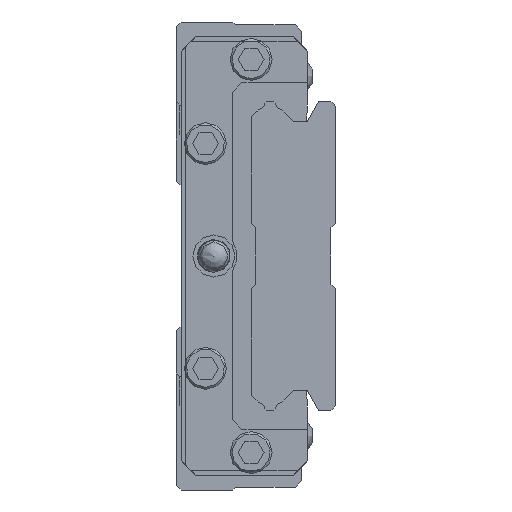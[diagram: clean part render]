
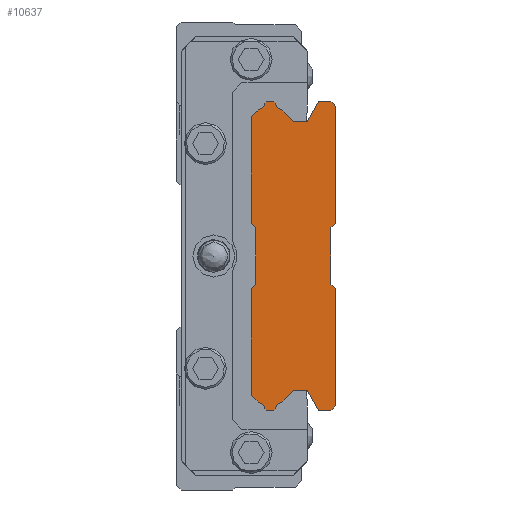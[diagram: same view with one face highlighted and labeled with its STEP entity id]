
A CAD part, left-side view. The second image highlights one B-rep face of the part: STEP entity #10637.
In plain terms, the highlighted planar face has unit normal (-1, 0, 0).
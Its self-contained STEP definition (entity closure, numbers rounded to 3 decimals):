
#452=LINE('',#16907,#1020);
#462=LINE('',#16928,#1030);
#469=LINE('',#16943,#1037);
#478=LINE('',#16961,#1046);
#481=LINE('',#16966,#1049);
#488=LINE('',#16978,#1056);
#497=LINE('',#16997,#1065);
#500=LINE('',#17003,#1068);
#506=LINE('',#17015,#1074);
#515=LINE('',#17033,#1083);
#518=LINE('',#17039,#1086);
#524=LINE('',#17051,#1092);
#529=LINE('',#17136,#1097);
#535=LINE('',#17222,#1103);
#544=LINE('',#17240,#1112);
#547=LINE('',#17321,#1115);
#555=LINE('',#17411,#1123);
#558=LINE('',#17493,#1126);
#564=LINE('',#17579,#1132);
#573=LINE('',#17597,#1141);
#576=LINE('',#17679,#1144);
#582=LINE('',#17765,#1150);
#587=LINE('',#17778,#1155);
#590=LINE('',#17784,#1158);
#592=LINE('',#17787,#1160);
#594=LINE('',#17790,#1162);
#597=LINE('',#17796,#1165);
#600=LINE('',#17808,#1168);
#1020=VECTOR('',#13491,1000.);
#1030=VECTOR('',#13503,1000.);
#1037=VECTOR('',#13514,1000.);
#1046=VECTOR('',#13525,1000.);
#1049=VECTOR('',#13530,1000.);
#1056=VECTOR('',#13541,1000.);
#1065=VECTOR('',#13552,1000.);
#1068=VECTOR('',#13557,1000.);
#1074=VECTOR('',#13567,1000.);
#1083=VECTOR('',#13578,1000.);
#1086=VECTOR('',#13583,1000.);
#1092=VECTOR('',#13593,1000.);
#1097=VECTOR('',#13676,1000.);
#1103=VECTOR('',#13760,1000.);
#1112=VECTOR('',#13771,1000.);
#1115=VECTOR('',#13852,1000.);
#1123=VECTOR('',#13938,1000.);
#1126=VECTOR('',#14019,1000.);
#1132=VECTOR('',#14103,1000.);
#1141=VECTOR('',#14114,1000.);
#1144=VECTOR('',#14195,1000.);
#1150=VECTOR('',#14279,1000.);
#1155=VECTOR('',#14292,1000.);
#1158=VECTOR('',#14297,1000.);
#1160=VECTOR('',#14301,1000.);
#1162=VECTOR('',#14305,1000.);
#1165=VECTOR('',#14310,1000.);
#1168=VECTOR('',#14327,1000.);
#1394=PLANE('',#11763);
#3376=ORIENTED_EDGE('',*,*,#4858,.F.);
#3377=ORIENTED_EDGE('',*,*,#4884,.F.);
#3378=ORIENTED_EDGE('',*,*,#5304,.T.);
#3379=ORIENTED_EDGE('',*,*,#5278,.F.);
#3380=ORIENTED_EDGE('',*,*,#5235,.F.);
#3381=ORIENTED_EDGE('',*,*,#5194,.F.);
#3382=ORIENTED_EDGE('',*,*,#5302,.F.);
#3383=ORIENTED_EDGE('',*,*,#5185,.F.);
#3384=ORIENTED_EDGE('',*,*,#5142,.F.);
#3385=ORIENTED_EDGE('',*,*,#5101,.F.);
#3386=ORIENTED_EDGE('',*,*,#5300,.T.);
#3387=ORIENTED_EDGE('',*,*,#4920,.F.);
#3388=ORIENTED_EDGE('',*,*,#4914,.F.);
#3389=ORIENTED_EDGE('',*,*,#4911,.F.);
#3390=ORIENTED_EDGE('',*,*,#5298,.T.);
#3391=ORIENTED_EDGE('',*,*,#5295,.F.);
#3392=ORIENTED_EDGE('',*,*,#5292,.F.);
#3393=ORIENTED_EDGE('',*,*,#4902,.F.);
#3394=ORIENTED_EDGE('',*,*,#4896,.F.);
#3395=ORIENTED_EDGE('',*,*,#4893,.F.);
#3396=ORIENTED_EDGE('',*,*,#5056,.F.);
#3397=ORIENTED_EDGE('',*,*,#5015,.F.);
#3398=ORIENTED_EDGE('',*,*,#5290,.F.);
#3399=ORIENTED_EDGE('',*,*,#5006,.F.);
#3400=ORIENTED_EDGE('',*,*,#4963,.F.);
#3401=ORIENTED_EDGE('',*,*,#4848,.F.);
#3402=ORIENTED_EDGE('',*,*,#4877,.F.);
#3403=ORIENTED_EDGE('',*,*,#4874,.F.);
#3404=ORIENTED_EDGE('',*,*,#5288,.F.);
#3405=ORIENTED_EDGE('',*,*,#5285,.F.);
#3406=ORIENTED_EDGE('',*,*,#5282,.T.);
#3407=ORIENTED_EDGE('',*,*,#4865,.F.);
#4848=EDGE_CURVE('',#5954,#5955,#452,.T.);
#4858=EDGE_CURVE('',#5964,#5965,#462,.T.);
#4865=EDGE_CURVE('',#5965,#5971,#469,.T.);
#4874=EDGE_CURVE('',#5978,#5979,#478,.T.);
#4877=EDGE_CURVE('',#5979,#5954,#481,.T.);
#4884=EDGE_CURVE('',#5982,#5964,#488,.T.);
#4893=EDGE_CURVE('',#5991,#5992,#497,.T.);
#4896=EDGE_CURVE('',#5992,#5994,#500,.T.);
#4902=EDGE_CURVE('',#5994,#5998,#506,.T.);
#4911=EDGE_CURVE('',#6005,#6006,#515,.T.);
#4914=EDGE_CURVE('',#6006,#6008,#518,.T.);
#4920=EDGE_CURVE('',#6008,#6012,#524,.T.);
#4963=EDGE_CURVE('',#5955,#6053,#529,.T.);
#5006=EDGE_CURVE('',#6053,#6094,#535,.T.);
#5015=EDGE_CURVE('',#6101,#6102,#544,.T.);
#5056=EDGE_CURVE('',#6102,#5991,#547,.T.);
#5101=EDGE_CURVE('',#6183,#6184,#555,.T.);
#5142=EDGE_CURVE('',#6184,#6224,#558,.T.);
#5185=EDGE_CURVE('',#6224,#6265,#564,.T.);
#5194=EDGE_CURVE('',#6272,#6273,#573,.T.);
#5235=EDGE_CURVE('',#6273,#6313,#576,.T.);
#5278=EDGE_CURVE('',#6313,#6354,#582,.T.);
#5282=EDGE_CURVE('',#6356,#5971,#7030,.T.);
#5285=EDGE_CURVE('',#6356,#6358,#587,.T.);
#5288=EDGE_CURVE('',#6358,#5978,#590,.T.);
#5290=EDGE_CURVE('',#6094,#6101,#592,.T.);
#5292=EDGE_CURVE('',#5998,#6360,#594,.T.);
#5295=EDGE_CURVE('',#6360,#6362,#597,.T.);
#5298=EDGE_CURVE('',#6005,#6362,#7032,.T.);
#5300=EDGE_CURVE('',#6183,#6012,#7034,.T.);
#5302=EDGE_CURVE('',#6265,#6272,#600,.T.);
#5304=EDGE_CURVE('',#5982,#6354,#7036,.T.);
#5954=VERTEX_POINT('',#16906);
#5955=VERTEX_POINT('',#16908);
#5964=VERTEX_POINT('',#16927);
#5965=VERTEX_POINT('',#16929);
#5971=VERTEX_POINT('',#16944);
#5978=VERTEX_POINT('',#16960);
#5979=VERTEX_POINT('',#16962);
#5982=VERTEX_POINT('',#16977);
#5991=VERTEX_POINT('',#16996);
#5992=VERTEX_POINT('',#16998);
#5994=VERTEX_POINT('',#17004);
#5998=VERTEX_POINT('',#17016);
#6005=VERTEX_POINT('',#17032);
#6006=VERTEX_POINT('',#17034);
#6008=VERTEX_POINT('',#17040);
#6012=VERTEX_POINT('',#17052);
#6053=VERTEX_POINT('',#17137);
#6094=VERTEX_POINT('',#17223);
#6101=VERTEX_POINT('',#17239);
#6102=VERTEX_POINT('',#17241);
#6183=VERTEX_POINT('',#17410);
#6184=VERTEX_POINT('',#17412);
#6224=VERTEX_POINT('',#17494);
#6265=VERTEX_POINT('',#17580);
#6272=VERTEX_POINT('',#17596);
#6273=VERTEX_POINT('',#17598);
#6313=VERTEX_POINT('',#17680);
#6354=VERTEX_POINT('',#17766);
#6356=VERTEX_POINT('',#17773);
#6358=VERTEX_POINT('',#17779);
#6360=VERTEX_POINT('',#17791);
#6362=VERTEX_POINT('',#17797);
#7030=CIRCLE('',#11745,1.04);
#7032=CIRCLE('',#11753,1.04);
#7034=CIRCLE('',#11756,1.04);
#7036=CIRCLE('',#11760,1.04);
#7945=EDGE_LOOP('',(#3376,#3377,#3378,#3379,#3380,#3381,#3382,#3383,#3384,
#3385,#3386,#3387,#3388,#3389,#3390,#3391,#3392,#3393,#3394,#3395,#3396,
#3397,#3398,#3399,#3400,#3401,#3402,#3403,#3404,#3405,#3406,#3407));
#9473=FACE_BOUND('',#7945,.T.);
#10637=ADVANCED_FACE('',(#9473),#1394,.F.);
#11745=AXIS2_PLACEMENT_3D('',#17772,#14285,#14286);
#11753=AXIS2_PLACEMENT_3D('',#17802,#14315,#14316);
#11756=AXIS2_PLACEMENT_3D('',#17805,#14321,#14322);
#11760=AXIS2_PLACEMENT_3D('',#17811,#14331,#14332);
#11763=AXIS2_PLACEMENT_3D('',#17814,#14337,#14338);
#13491=DIRECTION('',(0.,-0.707,-0.707));
#13503=DIRECTION('',(0.,-1.,0.));
#13514=DIRECTION('',(0.,-0.707,-0.707));
#13525=DIRECTION('',(0.,-0.5,0.866));
#13530=DIRECTION('',(0.,-1.,0.));
#13541=DIRECTION('',(0.,-0.707,0.707));
#13552=DIRECTION('',(0.,0.707,-0.707));
#13557=DIRECTION('',(0.,1.,0.));
#13567=DIRECTION('',(0.,0.5,0.866));
#13578=DIRECTION('',(0.,0.707,-0.707));
#13583=DIRECTION('',(0.,1.,0.));
#13593=DIRECTION('',(0.,0.707,0.707));
#13676=DIRECTION('',(0.,0.,-1.));
#13760=DIRECTION('',(0.,0.707,-0.707));
#13771=DIRECTION('',(0.,-0.707,-0.707));
#13852=DIRECTION('',(0.,0.,-1.));
#13938=DIRECTION('',(0.,0.707,0.707));
#14019=DIRECTION('',(0.,0.,1.));
#14103=DIRECTION('',(0.,-0.707,0.707));
#14114=DIRECTION('',(0.,0.707,0.707));
#14195=DIRECTION('',(0.,0.,1.));
#14279=DIRECTION('',(0.,-0.707,0.707));
#14285=DIRECTION('',(1.,0.,0.));
#14286=DIRECTION('',(0.,0.,-1.));
#14292=DIRECTION('',(0.,-0.707,-0.707));
#14297=DIRECTION('',(0.,-1.,0.));
#14301=DIRECTION('',(0.,0.,-1.));
#14305=DIRECTION('',(0.,1.,0.));
#14310=DIRECTION('',(0.,0.707,-0.707));
#14315=DIRECTION('',(1.,0.,0.));
#14316=DIRECTION('',(0.,0.,-1.));
#14321=DIRECTION('',(1.,0.,0.));
#14322=DIRECTION('',(0.,0.,-1.));
#14327=DIRECTION('',(0.,0.,1.));
#14331=DIRECTION('',(1.,0.,0.));
#14332=DIRECTION('',(0.,0.,-1.));
#14337=DIRECTION('',(1.,0.,0.));
#14338=DIRECTION('',(0.,0.,-1.));
#16906=CARTESIAN_POINT('',(-20.,0.5,16.5));
#16907=CARTESIAN_POINT('',(-20.,0.5,16.5));
#16908=CARTESIAN_POINT('',(-20.,0.,16.));
#16927=CARTESIAN_POINT('',(-20.,7.38,16.5));
#16928=CARTESIAN_POINT('',(-20.,7.38,16.5));
#16929=CARTESIAN_POINT('',(-20.,6.62,16.5));
#16943=CARTESIAN_POINT('',(-20.,6.62,16.5));
#16944=CARTESIAN_POINT('',(-20.,6.459,16.339));
#16960=CARTESIAN_POINT('',(-20.,3.041,14.35));
#16961=CARTESIAN_POINT('',(-20.,3.041,14.35));
#16962=CARTESIAN_POINT('',(-20.,1.8,16.5));
#16966=CARTESIAN_POINT('',(-20.,1.8,16.5));
#16977=CARTESIAN_POINT('',(-20.,7.543,16.337));
#16978=CARTESIAN_POINT('',(-20.,7.543,16.337));
#16996=CARTESIAN_POINT('',(-20.,0.,-16.));
#16997=CARTESIAN_POINT('',(-20.,0.,-16.));
#16998=CARTESIAN_POINT('',(-20.,0.5,-16.5));
#17003=CARTESIAN_POINT('',(-20.,0.5,-16.5));
#17004=CARTESIAN_POINT('',(-20.,1.8,-16.5));
#17015=CARTESIAN_POINT('',(-20.,1.8,-16.5));
#17016=CARTESIAN_POINT('',(-20.,3.041,-14.35));
#17032=CARTESIAN_POINT('',(-20.,6.459,-16.339));
#17033=CARTESIAN_POINT('',(-20.,6.459,-16.339));
#17034=CARTESIAN_POINT('',(-20.,6.62,-16.5));
#17039=CARTESIAN_POINT('',(-20.,6.62,-16.5));
#17040=CARTESIAN_POINT('',(-20.,7.38,-16.5));
#17051=CARTESIAN_POINT('',(-20.,7.38,-16.5));
#17052=CARTESIAN_POINT('',(-20.,7.543,-16.337));
#17136=CARTESIAN_POINT('',(-20.,0.,16.));
#17137=CARTESIAN_POINT('',(-20.,0.,3.5));
#17222=CARTESIAN_POINT('',(-20.,0.,3.5));
#17223=CARTESIAN_POINT('',(-20.,0.5,3.));
#17239=CARTESIAN_POINT('',(-20.,0.5,-3.));
#17240=CARTESIAN_POINT('',(-20.,0.5,-3.));
#17241=CARTESIAN_POINT('',(-20.,0.,-3.5));
#17321=CARTESIAN_POINT('',(-20.,0.,-3.5));
#17410=CARTESIAN_POINT('',(-20.,8.267,-15.613));
#17411=CARTESIAN_POINT('',(-20.,8.267,-15.613));
#17412=CARTESIAN_POINT('',(-20.,9.,-14.88));
#17493=CARTESIAN_POINT('',(-20.,9.,-14.88));
#17494=CARTESIAN_POINT('',(-20.,9.,-3.5));
#17579=CARTESIAN_POINT('',(-20.,9.,-3.5));
#17580=CARTESIAN_POINT('',(-20.,8.5,-3.));
#17596=CARTESIAN_POINT('',(-20.,8.5,3.));
#17597=CARTESIAN_POINT('',(-20.,8.5,3.));
#17598=CARTESIAN_POINT('',(-20.,9.,3.5));
#17679=CARTESIAN_POINT('',(-20.,9.,3.5));
#17680=CARTESIAN_POINT('',(-20.,9.,14.88));
#17765=CARTESIAN_POINT('',(-20.,9.,14.88));
#17766=CARTESIAN_POINT('',(-20.,8.267,15.613));
#17772=CARTESIAN_POINT('',(-20.,5.456,16.615));
#17773=CARTESIAN_POINT('',(-20.,5.732,15.612));
#17778=CARTESIAN_POINT('',(-20.,5.732,15.612));
#17779=CARTESIAN_POINT('',(-20.,4.47,14.35));
#17784=CARTESIAN_POINT('',(-20.,4.47,14.35));
#17787=CARTESIAN_POINT('',(-20.,0.5,3.));
#17790=CARTESIAN_POINT('',(-20.,3.041,-14.35));
#17791=CARTESIAN_POINT('',(-20.,4.47,-14.35));
#17796=CARTESIAN_POINT('',(-20.,4.47,-14.35));
#17797=CARTESIAN_POINT('',(-20.,5.732,-15.612));
#17802=CARTESIAN_POINT('',(-20.,5.456,-16.615));
#17805=CARTESIAN_POINT('',(-20.,8.545,-16.615));
#17808=CARTESIAN_POINT('',(-20.,8.5,-3.));
#17811=CARTESIAN_POINT('',(-20.,8.545,16.615));
#17814=CARTESIAN_POINT('',(-20.,5.456,16.615));
